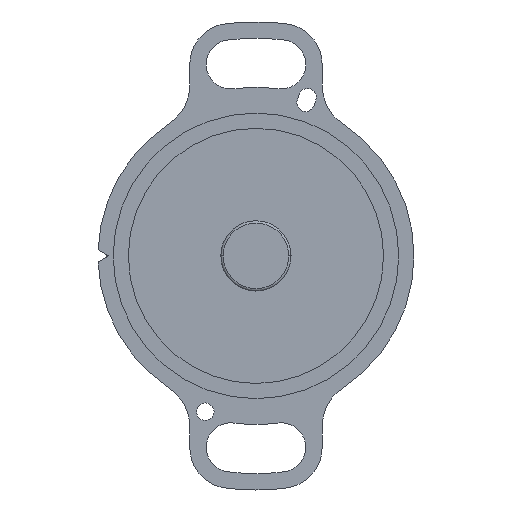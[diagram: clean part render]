
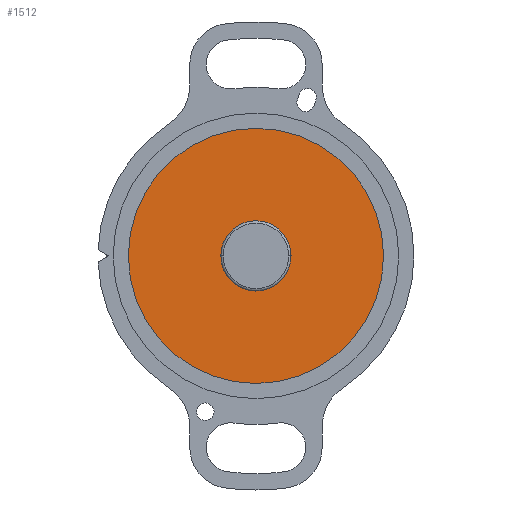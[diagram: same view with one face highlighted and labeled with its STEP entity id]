
A CAD part, front view. The second image highlights one B-rep face of the part: STEP entity #1512.
In plain terms, the highlighted planar face has unit normal (0, -1, 0).
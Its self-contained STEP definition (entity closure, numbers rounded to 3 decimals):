
#114 = CIRCLE ( 'NONE', #3672, 10.9 ) ;
#196 = PLANE ( 'NONE',  #762 ) ;
#215 = FACE_OUTER_BOUND ( 'NONE', #3057, .T. ) ;
#263 = ORIENTED_EDGE ( 'NONE', *, *, #2310, .T. ) ;
#472 = DIRECTION ( 'NONE',  ( 0., 0., -1. ) ) ;
#634 = CARTESIAN_POINT ( 'NONE',  ( 0., 0., -10.9 ) ) ;
#762 = AXIS2_PLACEMENT_3D ( 'NONE', #4356, #1888, #3309 ) ;
#903 = EDGE_CURVE ( 'NONE', #1958, #2860, #114, .T. ) ;
#1373 = DIRECTION ( 'NONE',  ( 0., -1., 0. ) ) ;
#1512 = ADVANCED_FACE ( 'NONE', ( #215 ), #196, .F. ) ;
#1678 = CARTESIAN_POINT ( 'NONE',  ( 0., 0., 10.9 ) ) ;
#1888 = DIRECTION ( 'NONE',  ( 0., 1., 0. ) ) ;
#1958 = VERTEX_POINT ( 'NONE', #634 ) ;
#2310 = EDGE_CURVE ( 'NONE', #2860, #1958, #2344, .T. ) ;
#2344 = CIRCLE ( 'NONE', #2719, 10.9 ) ;
#2719 = AXIS2_PLACEMENT_3D ( 'NONE', #4487, #1373, #4148 ) ;
#2860 = VERTEX_POINT ( 'NONE', #1678 ) ;
#2919 = DIRECTION ( 'NONE',  ( 0., -1., 0. ) ) ;
#3057 = EDGE_LOOP ( 'NONE', ( #4239, #263 ) ) ;
#3309 = DIRECTION ( 'NONE',  ( 0., 0., 1. ) ) ;
#3590 = CARTESIAN_POINT ( 'NONE',  ( 0., 0., 0. ) ) ;
#3672 = AXIS2_PLACEMENT_3D ( 'NONE', #3590, #2919, #472 ) ;
#4148 = DIRECTION ( 'NONE',  ( 0., 0., -1. ) ) ;
#4239 = ORIENTED_EDGE ( 'NONE', *, *, #903, .T. ) ;
#4356 = CARTESIAN_POINT ( 'NONE',  ( -18.5, 0., 0. ) ) ;
#4487 = CARTESIAN_POINT ( 'NONE',  ( 0., 0., 0. ) ) ;
